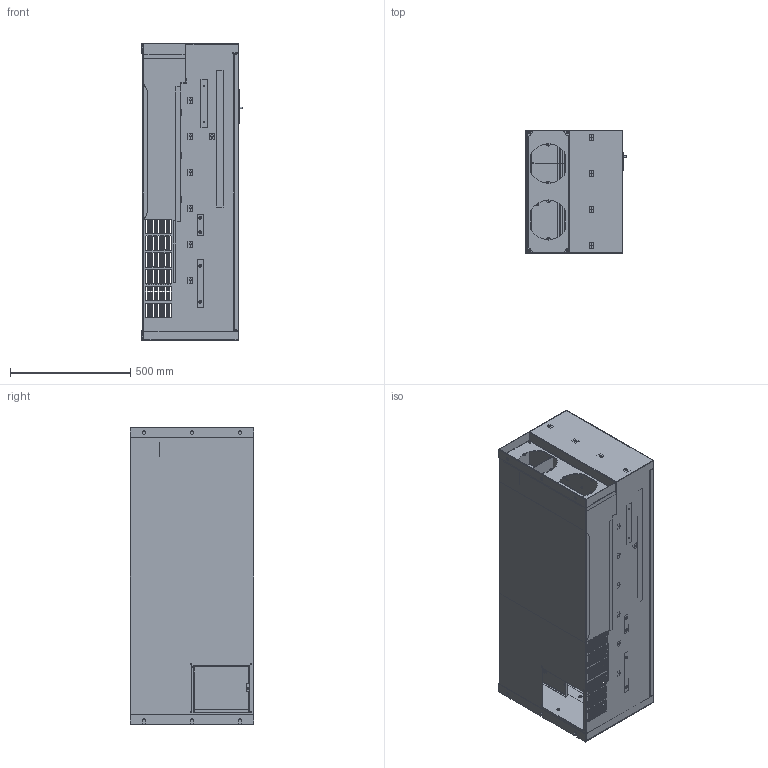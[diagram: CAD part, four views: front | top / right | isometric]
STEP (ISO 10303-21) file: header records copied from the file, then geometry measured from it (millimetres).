
FILE_DESCRIPTION(('STEP AP203'), '1');
FILE_NAME('Ïðåîáðàçîâàòåëü ÷àñòîòû _ MCI-G200_220-4F', '', ('UNSPECIFIED'), ('UNSPECIFIED'), 'C3D Converter', 'C3D Toolkit', '');
FILE_SCHEMA(('CONFIG_CONTROL_DESIGN'));
Length unit declared in the file: millimetre
Products named in the file (48): MCI-G200_P220-4F; MCI-G200; MCI-MF-B; MCI-KP-B
Assembly tree (152 placements, depth 4):
  MCI-G200_P220-4F
    MCI-G200
      MCI-G200
        MCI-G200
        MCI-G200  x4
      MCI-G200
        MCI-G200
        MCI-G200  x4
        MCI-G200  x4
        MCI-G200  x3
        MCI-G200  x7
      MCI-G200
        MCI-G200
        MCI-G200  x4
        MCI-G200  x4
        MCI-G200  x4
      MCI-G200
      MCI-G200
        MCI-G200
        MCI-G200  x6
      MCI-G200
        MCI-G200
        MCI-G200  x8
      MCI-G200
        MCI-G200
        MCI-G200  x2
      MCI-G200
      MCI-G200
      MCI-G200  x2
        MCI-G200
        MCI-G200
      MCI-G200  x2
        MCI-G200
        MCI-G200
      MCI-G200  x10
      MCI-G200  x2
        MCI-G200
        MCI-G200
      MCI-G200
    MCI-G200
    MCI-G200
      MCI-G200
      MCI-G200  x4
    MCI-G200
      MCI-G200
      MCI-G200
      MCI-G200
      MCI-G200
    MCI-G200
    MCI-G200
    MCI-G200
      MCI-G200
      MCI-G200  x30
    MCI-G200  x2
      MCI-G200
      MCI-G200
    MCI-G200  x2
      MCI-G200
      MCI-G200
      MCI-G200
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Bounding box: 417.37 x 514 x 1235 mm (x, y, z)
Volume: 6612189.9 mm3; surface area: 7453694.1 mm2
Topology: 156 solids, 164 shells, 3366 faces, 8146 edges, 5165 vertices
Faces by surface type: plane 1953, cylinder 1232, revolution 74, extrusion 48, cone 28, bspline 24, torus 5, sphere 2
Full cylindrical faces by diameter (mm): 0.2 x2, 1 x48, 1.7 x2, 2 x4, 2.7 x4, 3 x4, 4 x45, 5 x52, 5.4 x86, 5.5 x4, 6 x16, 6.4 x96, 6.5 x2, 7 x20, 7.9 x41, 8 x14, 8.5 x2, 8.7 x52, 8.8 x4, 9.5 x8, 10.5 x8, 11 x4, 12 x5, 12.5 x2, 12.65 x4, 13 x4, 14 x6, 14.9 x4, 15 x2, 16 x1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
Entity records: 74749 total; most frequent: CARTESIAN_POINT 15154, DIRECTION 10831, ORIENTED_EDGE 10490, EDGE_CURVE 5248, VECTOR 3691, LINE 3643, AXIS2_PLACEMENT_3D 3560, VERTEX_POINT 3492
